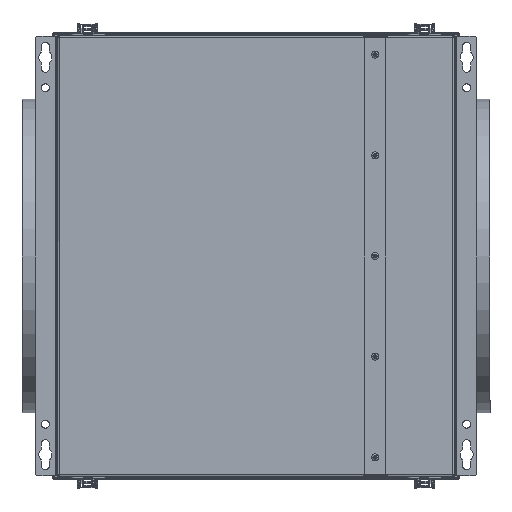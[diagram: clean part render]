
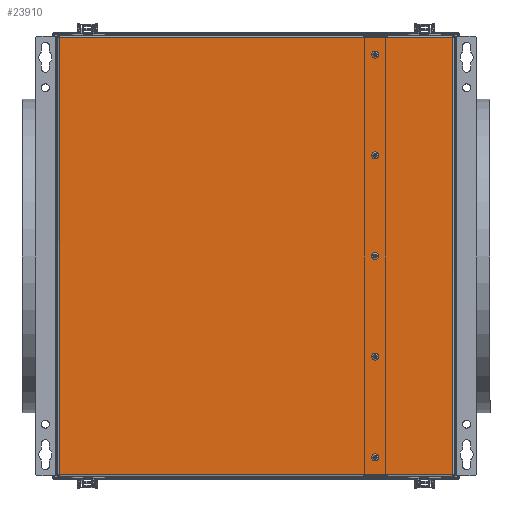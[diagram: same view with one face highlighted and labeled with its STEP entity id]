
A CAD part, front view. The second image highlights one B-rep face of the part: STEP entity #23910.
In plain terms, the highlighted planar face has unit normal (0, -1, 0).
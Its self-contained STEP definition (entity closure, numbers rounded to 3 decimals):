
#122 = CIRCLE ( 'NONE', #25157, 2.1 ) ;
#483 = DIRECTION ( 'NONE',  ( 0., -1., 0. ) ) ;
#1279 = CARTESIAN_POINT ( 'NONE',  ( 135., 0., -111.9 ) ) ;
#1317 = CARTESIAN_POINT ( 'NONE',  ( -223., 0., 248. ) ) ;
#1404 = CARTESIAN_POINT ( 'NONE',  ( 223., 0., -248. ) ) ;
#1662 = DIRECTION ( 'NONE',  ( 0., 0., -1. ) ) ;
#1763 = DIRECTION ( 'NONE',  ( 0., 0., -1. ) ) ;
#1780 = CARTESIAN_POINT ( 'NONE',  ( 135., 0., -116.1 ) ) ;
#1837 = DIRECTION ( 'NONE',  ( 0., 0., -1. ) ) ;
#1911 = ORIENTED_EDGE ( 'NONE', *, *, #22383, .T. ) ;
#1998 = AXIS2_PLACEMENT_3D ( 'NONE', #13526, #483, #15671 ) ;
#2286 = FACE_BOUND ( 'NONE', #5346, .T. ) ;
#2454 = CARTESIAN_POINT ( 'NONE',  ( -225., 0., -248. ) ) ;
#2488 = VECTOR ( 'NONE', #13782, 1000. ) ;
#2715 = CARTESIAN_POINT ( 'NONE',  ( 135., 0., 2.1 ) ) ;
#2813 = EDGE_CURVE ( 'NONE', #22907, #24273, #11766, .T. ) ;
#3169 = CARTESIAN_POINT ( 'NONE',  ( 135., 0., -2.1 ) ) ;
#3732 = VERTEX_POINT ( 'NONE', #19413 ) ;
#3825 = LINE ( 'NONE', #2454, #2488 ) ;
#3842 = CARTESIAN_POINT ( 'NONE',  ( 135., 0., 230.1 ) ) ;
#4099 = VERTEX_POINT ( 'NONE', #1317 ) ;
#4356 = EDGE_CURVE ( 'NONE', #5752, #20454, #122, .T. ) ;
#4447 = VERTEX_POINT ( 'NONE', #10172 ) ;
#4518 = EDGE_CURVE ( 'NONE', #4447, #20481, #3825, .T. ) ;
#4643 = AXIS2_PLACEMENT_3D ( 'NONE', #23139, #10028, #25298 ) ;
#4995 = EDGE_CURVE ( 'NONE', #17964, #11836, #20536, .T. ) ;
#5269 = AXIS2_PLACEMENT_3D ( 'NONE', #6157, #21435, #8334 ) ;
#5303 = CARTESIAN_POINT ( 'NONE',  ( 223., 0., 248. ) ) ;
#5346 = EDGE_LOOP ( 'NONE', ( #9354, #16930 ) ) ;
#5476 = EDGE_LOOP ( 'NONE', ( #12651, #11153, #1911, #5993 ) ) ;
#5736 = CARTESIAN_POINT ( 'NONE',  ( 135., 0., 225.9 ) ) ;
#5752 = VERTEX_POINT ( 'NONE', #2715 ) ;
#5915 = DIRECTION ( 'NONE',  ( 0., -1., 0. ) ) ;
#5993 = ORIENTED_EDGE ( 'NONE', *, *, #9515, .T. ) ;
#6018 = CARTESIAN_POINT ( 'NONE',  ( 135., 0., 0. ) ) ;
#6107 = DIRECTION ( 'NONE',  ( -1., 0., 0. ) ) ;
#6157 = CARTESIAN_POINT ( 'NONE',  ( 135., 0., -228. ) ) ;
#6737 = ORIENTED_EDGE ( 'NONE', *, *, #14413, .F. ) ;
#7020 = CARTESIAN_POINT ( 'NONE',  ( 135., 0., 111.9 ) ) ;
#7175 = EDGE_CURVE ( 'NONE', #13813, #23727, #25961, .T. ) ;
#7602 = DIRECTION ( 'NONE',  ( 0., -1., 0. ) ) ;
#8062 = FACE_BOUND ( 'NONE', #21668, .T. ) ;
#8334 = DIRECTION ( 'NONE',  ( 0., 0., -1. ) ) ;
#8955 = VECTOR ( 'NONE', #6107, 1000. ) ;
#9005 = CARTESIAN_POINT ( 'NONE',  ( -225., 0., 250. ) ) ;
#9354 = ORIENTED_EDGE ( 'NONE', *, *, #7175, .F. ) ;
#9515 = EDGE_CURVE ( 'NONE', #22305, #4099, #26380, .T. ) ;
#9813 = AXIS2_PLACEMENT_3D ( 'NONE', #20681, #7602, #22871 ) ;
#10028 = DIRECTION ( 'NONE',  ( 0., -1., 0. ) ) ;
#10172 = CARTESIAN_POINT ( 'NONE',  ( -223., 0., -248. ) ) ;
#10459 = CIRCLE ( 'NONE', #9813, 2.1 ) ;
#10614 = CARTESIAN_POINT ( 'NONE',  ( 135., 0., -114. ) ) ;
#10887 = CIRCLE ( 'NONE', #25612, 2.1 ) ;
#11053 = ORIENTED_EDGE ( 'NONE', *, *, #20102, .F. ) ;
#11153 = ORIENTED_EDGE ( 'NONE', *, *, #4518, .T. ) ;
#11766 = CIRCLE ( 'NONE', #27479, 2.1 ) ;
#11805 = CIRCLE ( 'NONE', #1998, 2.1 ) ;
#11836 = VERTEX_POINT ( 'NONE', #1780 ) ;
#12024 = CARTESIAN_POINT ( 'NONE',  ( 223., 0., -248. ) ) ;
#12538 = EDGE_CURVE ( 'NONE', #20454, #5752, #10887, .T. ) ;
#12651 = ORIENTED_EDGE ( 'NONE', *, *, #19255, .T. ) ;
#12804 = DIRECTION ( 'NONE',  ( 0., 0., -1. ) ) ;
#13115 = VECTOR ( 'NONE', #15611, 1000. ) ;
#13271 = DIRECTION ( 'NONE',  ( 0., -1., 0. ) ) ;
#13408 = DIRECTION ( 'NONE',  ( 0., 0., 1. ) ) ;
#13451 = CARTESIAN_POINT ( 'NONE',  ( -223., 0., 248. ) ) ;
#13526 = CARTESIAN_POINT ( 'NONE',  ( 135., 0., 114. ) ) ;
#13782 = DIRECTION ( 'NONE',  ( 1., 0., 0. ) ) ;
#13813 = VERTEX_POINT ( 'NONE', #7020 ) ;
#14015 = ORIENTED_EDGE ( 'NONE', *, *, #4995, .F. ) ;
#14413 = EDGE_CURVE ( 'NONE', #3732, #18795, #18643, .T. ) ;
#14542 = FACE_OUTER_BOUND ( 'NONE', #5476, .T. ) ;
#14665 = DIRECTION ( 'NONE',  ( 0., -1., 0. ) ) ;
#14796 = DIRECTION ( 'NONE',  ( 0., -1., 0. ) ) ;
#14897 = ORIENTED_EDGE ( 'NONE', *, *, #25799, .F. ) ;
#15563 = CARTESIAN_POINT ( 'NONE',  ( 135., 0., -114. ) ) ;
#15611 = DIRECTION ( 'NONE',  ( 0., 0., -1. ) ) ;
#15671 = DIRECTION ( 'NONE',  ( 0., 0., -1. ) ) ;
#15925 = EDGE_LOOP ( 'NONE', ( #16068, #24278 ) ) ;
#15960 = AXIS2_PLACEMENT_3D ( 'NONE', #9005, #26475, #13408 ) ;
#16068 = ORIENTED_EDGE ( 'NONE', *, *, #12538, .F. ) ;
#16921 = CARTESIAN_POINT ( 'NONE',  ( 135., 0., 116.1 ) ) ;
#16930 = ORIENTED_EDGE ( 'NONE', *, *, #18307, .F. ) ;
#17070 = EDGE_CURVE ( 'NONE', #24273, #22907, #10459, .T. ) ;
#17482 = DIRECTION ( 'NONE',  ( 0., -1., 0. ) ) ;
#17964 = VERTEX_POINT ( 'NONE', #1279 ) ;
#18307 = EDGE_CURVE ( 'NONE', #23727, #13813, #11805, .T. ) ;
#18643 = CIRCLE ( 'NONE', #4643, 2.1 ) ;
#18795 = VERTEX_POINT ( 'NONE', #22470 ) ;
#18985 = FACE_BOUND ( 'NONE', #21567, .T. ) ;
#19103 = AXIS2_PLACEMENT_3D ( 'NONE', #15563, #17482, #19411 ) ;
#19255 = EDGE_CURVE ( 'NONE', #4099, #4447, #24748, .T. ) ;
#19411 = DIRECTION ( 'NONE',  ( 0., 0., -1. ) ) ;
#19413 = CARTESIAN_POINT ( 'NONE',  ( 135., 0., -230.1 ) ) ;
#19776 = VECTOR ( 'NONE', #23163, 1000. ) ;
#20102 = EDGE_CURVE ( 'NONE', #11836, #17964, #21642, .T. ) ;
#20454 = VERTEX_POINT ( 'NONE', #3169 ) ;
#20481 = VERTEX_POINT ( 'NONE', #12024 ) ;
#20536 = CIRCLE ( 'NONE', #19103, 2.1 ) ;
#20681 = CARTESIAN_POINT ( 'NONE',  ( 135., 0., 228. ) ) ;
#21003 = CARTESIAN_POINT ( 'NONE',  ( 225., 0., 248. ) ) ;
#21432 = AXIS2_PLACEMENT_3D ( 'NONE', #10614, #25880, #12804 ) ;
#21435 = DIRECTION ( 'NONE',  ( 0., -1., 0. ) ) ;
#21567 = EDGE_LOOP ( 'NONE', ( #11053, #14015 ) ) ;
#21642 = CIRCLE ( 'NONE', #21432, 2.1 ) ;
#21668 = EDGE_LOOP ( 'NONE', ( #22221, #24165 ) ) ;
#21753 = FACE_BOUND ( 'NONE', #24215, .T. ) ;
#22221 = ORIENTED_EDGE ( 'NONE', *, *, #2813, .F. ) ;
#22305 = VERTEX_POINT ( 'NONE', #5303 ) ;
#22383 = EDGE_CURVE ( 'NONE', #20481, #22305, #26251, .T. ) ;
#22470 = CARTESIAN_POINT ( 'NONE',  ( 135., 0., -225.9 ) ) ;
#22584 = AXIS2_PLACEMENT_3D ( 'NONE', #27891, #13271, #26344 ) ;
#22871 = DIRECTION ( 'NONE',  ( 0., 0., -1. ) ) ;
#22907 = VERTEX_POINT ( 'NONE', #5736 ) ;
#23139 = CARTESIAN_POINT ( 'NONE',  ( 135., 0., -228. ) ) ;
#23163 = DIRECTION ( 'NONE',  ( 0., 0., 1. ) ) ;
#23727 = VERTEX_POINT ( 'NONE', #16921 ) ;
#23910 = ADVANCED_FACE ( 'NONE', ( #2286, #8062, #14542, #24809, #18985, #21753 ), #24309, .F. ) ;
#24165 = ORIENTED_EDGE ( 'NONE', *, *, #17070, .F. ) ;
#24215 = EDGE_LOOP ( 'NONE', ( #6737, #14897 ) ) ;
#24273 = VERTEX_POINT ( 'NONE', #3842 ) ;
#24278 = ORIENTED_EDGE ( 'NONE', *, *, #4356, .F. ) ;
#24309 = PLANE ( 'NONE',  #15960 ) ;
#24748 = LINE ( 'NONE', #13451, #13115 ) ;
#24809 = FACE_BOUND ( 'NONE', #15925, .T. ) ;
#25157 = AXIS2_PLACEMENT_3D ( 'NONE', #6018, #5915, #1837 ) ;
#25298 = DIRECTION ( 'NONE',  ( 0., 0., -1. ) ) ;
#25612 = AXIS2_PLACEMENT_3D ( 'NONE', #27766, #14665, #1662 ) ;
#25799 = EDGE_CURVE ( 'NONE', #18795, #3732, #27120, .T. ) ;
#25880 = DIRECTION ( 'NONE',  ( 0., -1., 0. ) ) ;
#25961 = CIRCLE ( 'NONE', #22584, 2.1 ) ;
#26251 = LINE ( 'NONE', #1404, #19776 ) ;
#26344 = DIRECTION ( 'NONE',  ( 0., 0., -1. ) ) ;
#26380 = LINE ( 'NONE', #21003, #8955 ) ;
#26475 = DIRECTION ( 'NONE',  ( 0., 1., 0. ) ) ;
#27120 = CIRCLE ( 'NONE', #5269, 2.1 ) ;
#27479 = AXIS2_PLACEMENT_3D ( 'NONE', #27874, #14796, #1763 ) ;
#27766 = CARTESIAN_POINT ( 'NONE',  ( 135., 0., 0. ) ) ;
#27874 = CARTESIAN_POINT ( 'NONE',  ( 135., 0., 228. ) ) ;
#27891 = CARTESIAN_POINT ( 'NONE',  ( 135., 0., 114. ) ) ;
